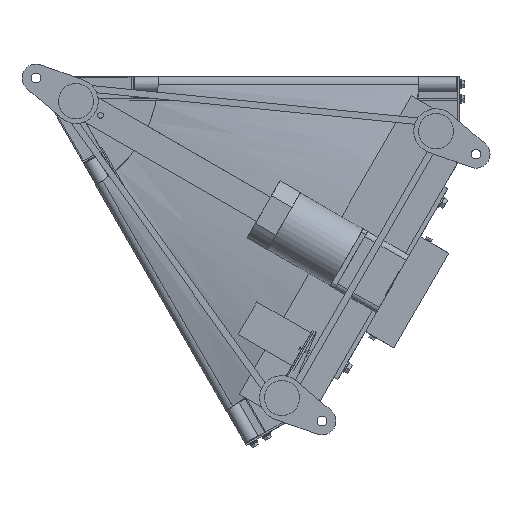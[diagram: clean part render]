
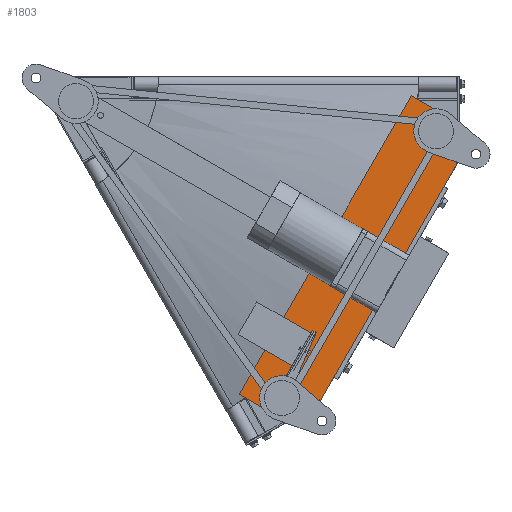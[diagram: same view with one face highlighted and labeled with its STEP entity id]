
A CAD part, front view. The second image highlights one B-rep face of the part: STEP entity #1803.
In plain terms, the highlighted planar face has unit normal (0, -1, 0).
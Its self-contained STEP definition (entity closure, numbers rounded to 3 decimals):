
#1803=ADVANCED_FACE('',(#6159),#6158,.T.);
#6158=PLANE('',#17425);
#6159=FACE_OUTER_BOUND('',#17426,.T.);
#17422=CARTESIAN_POINT('',(269.887,-167.5,-15.916));
#17423=DIRECTION('',(0.,-1.,0.));
#17424=DIRECTION('',(0.,0.,-1.));
#17425=AXIS2_PLACEMENT_3D('',#17422,#17423,#17424);
#17426=EDGE_LOOP('',(#22895,#22896,#22897,#22898,#22899,#22900));
#22895=ORIENTED_EDGE('',*,*,#27163,.T.);
#22896=ORIENTED_EDGE('',*,*,#27164,.F.);
#22897=ORIENTED_EDGE('',*,*,#27159,.T.);
#22898=ORIENTED_EDGE('',*,*,#27165,.F.);
#22899=ORIENTED_EDGE('',*,*,#27166,.F.);
#22900=ORIENTED_EDGE('',*,*,#27167,.F.);
#27159=EDGE_CURVE('',#34509,#34524,#34531,.T.);
#27163=EDGE_CURVE('',#34537,#34552,#34559,.T.);
#27164=EDGE_CURVE('',#34509,#34552,#34565,.T.);
#27165=EDGE_CURVE('',#34571,#34524,#34572,.T.);
#27166=EDGE_CURVE('',#34578,#34571,#34579,.T.);
#27167=EDGE_CURVE('',#34537,#34578,#34585,.T.);
#34509=VERTEX_POINT('',#50554);
#34524=VERTEX_POINT('',#50563);
#34531=LINE('',#50567,#50568);
#34537=VERTEX_POINT('',#50570);
#34552=VERTEX_POINT('',#50579);
#34559=LINE('',#50583,#50584);
#34565=LINE('',#50586,#50587);
#34571=VERTEX_POINT('',#50589);
#34572=LINE('',#50590,#50591);
#34578=VERTEX_POINT('',#50593);
#34579=LINE('',#50594,#50595);
#34585=LINE('',#50597,#50598);
#50554=CARTESIAN_POINT('',(576.49,-167.5,-119.217));
#50563=CARTESIAN_POINT('',(575.509,-167.5,-60.916));
#50567=CARTESIAN_POINT('',(576.49,-167.5,-119.217));
#50568=VECTOR('',#50569,58.31);
#50569=DIRECTION('',(-0.017,0.,1.));
#50570=CARTESIAN_POINT('',(340.509,-167.5,-467.948));
#50579=CARTESIAN_POINT('',(391.49,-167.5,-439.646));
#50583=CARTESIAN_POINT('',(340.509,-167.5,-467.948));
#50584=VECTOR('',#50585,58.31);
#50585=DIRECTION('',(0.874,0.,0.485));
#50586=CARTESIAN_POINT('',(576.49,-167.5,-119.217));
#50587=VECTOR('',#50588,370.);
#50588=DIRECTION('',(-0.5,0.,-0.866));
#50589=CARTESIAN_POINT('',(514.887,-167.5,-25.916));
#50590=CARTESIAN_POINT('',(514.887,-167.5,-25.916));
#50591=VECTOR('',#50592,70.);
#50592=DIRECTION('',(0.866,0.,-0.5));
#50593=CARTESIAN_POINT('',(279.887,-167.5,-432.948));
#50594=CARTESIAN_POINT('',(279.887,-167.5,-432.948));
#50595=VECTOR('',#50596,470.);
#50596=DIRECTION('',(0.5,0.,0.866));
#50597=CARTESIAN_POINT('',(340.509,-167.5,-467.948));
#50598=VECTOR('',#50599,70.);
#50599=DIRECTION('',(-0.866,0.,0.5));
